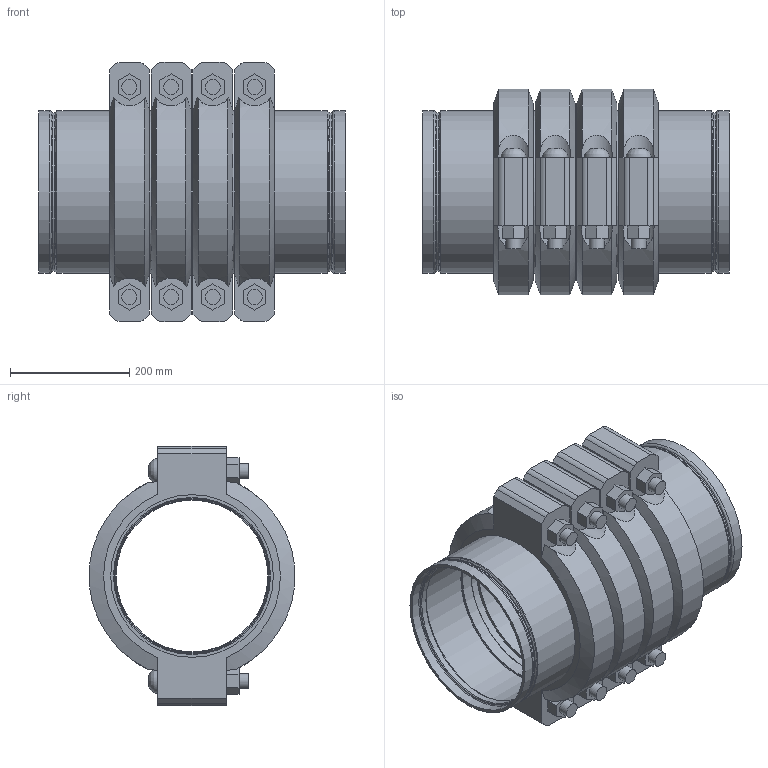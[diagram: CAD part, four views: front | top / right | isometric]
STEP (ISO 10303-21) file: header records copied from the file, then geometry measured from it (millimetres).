
FILE_DESCRIPTION(/* description */ ('VIC STRENGTHIN 100 EXPANSION JOINT 4 COUPLINGS COMPRESSED STYLE E155 (ST1)','CAx-IF Rec.Pracs.---Representation and Presentation of Product Manufacturing Information (PMI)---4.0---2014-10-13'),/* implementation_level */ '2;1');
FILE_NAME(/* name */ 'C:\Users\Vjadhav\AppData\Roaming\Autodesk\ApplicationPlugins\Victaulic.Temp\A975\Victaulic_SS-StrengThin 100_Expansion Joint_Compressed_4 Couplings_Style E155 (ST1)_10 (250).stp',/* time_stamp */ '2021-07-23T12:31:46+05:00',/* author */ ('kkamble'),/* organization */ ('Victaulic'),/* preprocessor_version */ 'ST-DEVELOPER v17.2',/* originating_system */ 'Autodesk Inventor 2019',/* authorisation */ '');
FILE_SCHEMA (('AP242_MANAGED_MODEL_BASED_3D_ENGINEERING_MIM_LF { 1 0 10303 442 1 1 4 }'));
Length unit declared in the file: inch
Products named in the file (4): E155-10.0; E494G-10.0; Nipple-10.0; 077-10.0
Assembly tree (9 placements, depth 2):
  E155-10.0
    E494G-10.0  x2
    Nipple-10.0  x3
    077-10.0  x4
Bounding box: 515.11 x 344.9 x 435.1 mm (x, y, z)
Volume: 14454121.7 mm3; surface area: 2060537.6 mm2
Topology: 9 solids, 17 shells, 334 faces, 876 edges, 622 vertices
Faces by surface type: plane 168, cylinder 106, torus 32, cone 20, bspline 8
Full cylindrical faces by diameter (mm): 25.4 x16, 27.432 x8, 254.508 x3, 255.626 x2, 258.724 x2, 263.5 x6, 265.176 x2, 268.275 x8, 273.05 x19
Entity records: 3954 total; most frequent: CARTESIAN_POINT 830, DIRECTION 665, ORIENTED_EDGE 568, AXIS2_PLACEMENT_3D 286, EDGE_CURVE 284, VERTEX_POINT 205, CIRCLE 171, EDGE_LOOP 129
